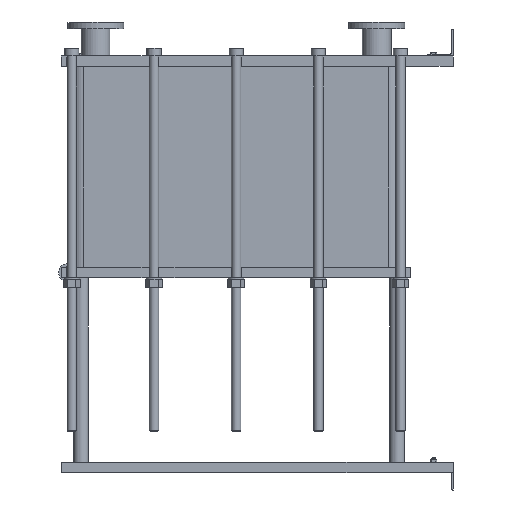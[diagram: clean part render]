
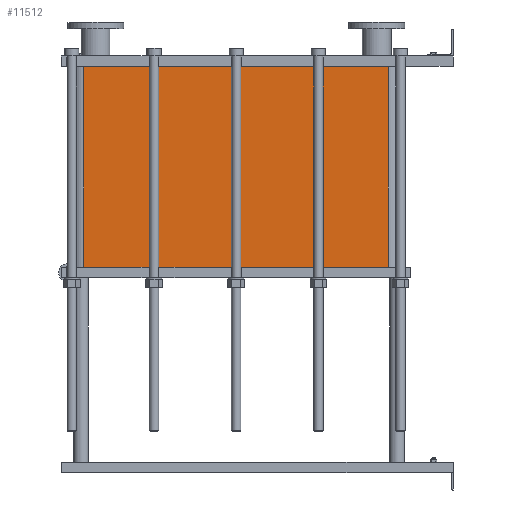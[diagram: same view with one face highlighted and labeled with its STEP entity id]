
A CAD part, left-side view. The second image highlights one B-rep face of the part: STEP entity #11512.
In plain terms, the highlighted planar face has unit normal (-1, 0, 0).
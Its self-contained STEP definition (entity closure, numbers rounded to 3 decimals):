
#1129=LINE('',#23232,#2102);
#1130=LINE('',#23236,#2103);
#1131=LINE('',#23238,#2104);
#1132=LINE('',#23239,#2105);
#2102=VECTOR('',#15887,10.);
#2103=VECTOR('',#15892,10.);
#2104=VECTOR('',#15893,10.);
#2105=VECTOR('',#15894,10.);
#3267=FACE_OUTER_BOUND('',#4093,.T.);
#4093=EDGE_LOOP('',(#10103,#10104,#10105,#10106));
#5642=VERTEX_POINT('',#23229);
#5643=VERTEX_POINT('',#23231);
#5644=VERTEX_POINT('',#23235);
#5645=VERTEX_POINT('',#23237);
#7159=EDGE_CURVE('',#5643,#5642,#1129,.T.);
#7161=EDGE_CURVE('',#5642,#5644,#1130,.T.);
#7162=EDGE_CURVE('',#5645,#5644,#1131,.T.);
#7163=EDGE_CURVE('',#5645,#5643,#1132,.T.);
#10103=ORIENTED_EDGE('',*,*,#7161,.T.);
#10104=ORIENTED_EDGE('',*,*,#7162,.F.);
#10105=ORIENTED_EDGE('',*,*,#7163,.T.);
#10106=ORIENTED_EDGE('',*,*,#7159,.T.);
#10857=PLANE('',#12751);
#11512=ADVANCED_FACE('',(#3267),#10857,.T.);
#12751=AXIS2_PLACEMENT_3D('',#23234,#15890,#15891);
#15887=DIRECTION('',(0.,0.,-1.));
#15890=DIRECTION('center_axis',(-1.,0.,0.));
#15891=DIRECTION('ref_axis',(0.,1.,0.));
#15892=DIRECTION('',(0.,-1.,0.));
#15893=DIRECTION('',(0.,0.,-1.));
#15894=DIRECTION('',(0.,1.,0.));
#23229=CARTESIAN_POINT('',(-200.,1414.,-769.35));
#23231=CARTESIAN_POINT('',(-200.,1414.,0.));
#23232=CARTESIAN_POINT('',(-200.,1414.,0.));
#23234=CARTESIAN_POINT('Origin',(-200.,248.,0.));
#23235=CARTESIAN_POINT('',(-200.,248.,-769.35));
#23236=CARTESIAN_POINT('',(-200.,539.5,-769.35));
#23237=CARTESIAN_POINT('',(-200.,248.,0.));
#23238=CARTESIAN_POINT('',(-200.,248.,0.));
#23239=CARTESIAN_POINT('',(-200.,248.,0.));
